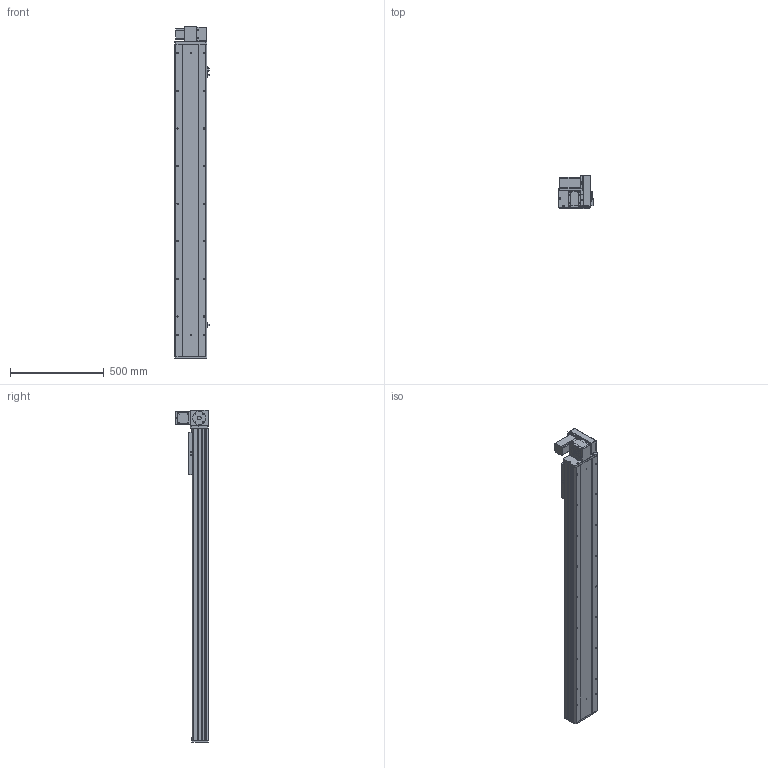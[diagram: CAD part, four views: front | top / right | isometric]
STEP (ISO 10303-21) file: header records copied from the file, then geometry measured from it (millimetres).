
FILE_DESCRIPTION (( 'STEP AP203' ), '1' );
FILE_NAME ('Y170CB-D105-S1350-UR-P400W.STEP', '2020-02-20T04:11:59', ( '微软用户' ), ( '微软中国' ), 'SwSTEP 2.0', 'SolidWorks 2017', '' );
FILE_SCHEMA (( 'CONFIG_CONTROL_DESIGN' ));
Length unit declared in the file: millimetre
Products named in the file (18): 0C--雄赽釱俋欶-170; 0B-萇儂楊擘啣; 70CB-詩湍--; san松下电机400不带刹车----; Y100-135俋离換覜ん--; 70CB-掛极-; Y170CB-陔俋离換覜結え---; --70CB --喘謫眊楊擘啣-; Y170CB-D105-S1350-UR-P400W; Y1埴倛裔; 70CB-耜裔啣-; 17B-耜蚾蟀諉啣----; 70C--詩湍揤踡え-; 00B-俋欶BM--163; 70CB--耜裔; 70B喘謫眊----; 70C-雄赽釱-奻-; B-源倛裔啣
Assembly tree (21 placements, depth 2):
  Y170CB-D105-S1350-UR-P400W
    B-源倛裔啣
    0B-萇儂楊擘啣
    san松下电机400不带刹车----
    70CB-掛极-
    --70CB --喘謫眊楊擘啣-
    70CB-耜裔啣-  x2
    70C--詩湍揤踡え-  x2
    70CB--耜裔
    70C-雄赽釱-奻-
    0C--雄赽釱俋欶-170
    70CB-詩湍--
    Y100-135俋离換覜ん--  x3
    Y170CB-陔俋离換覜結え---
    Y1埴倛裔
    17B-耜蚾蟀諉啣----
    00B-俋欶BM--163
    70B喘謫眊----
Bounding box: 183.5 x 174 x 1766 mm (x, y, z)
Volume: 7917309.2 mm3; surface area: 2845655.6 mm2
Topology: 21 solids, 21 shells, 1023 faces, 2741 edges, 1818 vertices
Faces by surface type: cylinder 537, plane 462, cone 24
Entity records: 32620 total; most frequent: CARTESIAN_POINT 5976, DIRECTION 5306, ORIENTED_EDGE 4964, EDGE_CURVE 2482, AXIS2_PLACEMENT_3D 1948, VERTEX_POINT 1648, LINE 1410, VECTOR 1410
